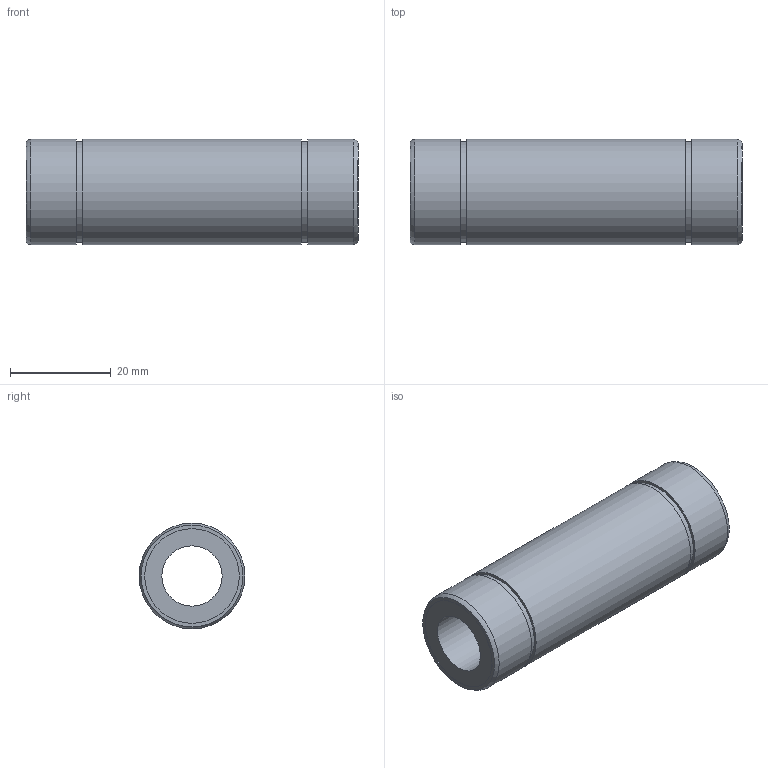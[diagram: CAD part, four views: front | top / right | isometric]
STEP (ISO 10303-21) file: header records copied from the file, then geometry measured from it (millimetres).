
FILE_DESCRIPTION((''),'2;1');
FILE_NAME('D:\製品 (図面)\カタログ用3D\メンテナンスフリー関連\STEP形式\LD-MF\LD12MF.stp','2010-06-01T15:35:36',('Tsuchiya'),(''),'Autodesk Inventor 10','Autodesk Inventor 10','');
FILE_SCHEMA(('AUTOMOTIVE_DESIGN { 1 0 10303 214 1 1 1 1 }'));
Length unit declared in the file: millimetre
Products named in the file (1): LD12MF
Bounding box: 66 x 21 x 21 mm (x, y, z)
Volume: 15257.7 mm3; surface area: 7390.9 mm2
Topology: 1 solids, 1 shells, 18 faces, 28 edges, 18 vertices
Faces by surface type: plane 8, cylinder 8, torus 2
Full cylindrical faces by diameter (mm): 12 x1, 18.8 x2, 20 x2, 21 x3
Entity records: 391 total; most frequent: DIRECTION 74, CARTESIAN_POINT 55, AXIS2_PLACEMENT_3D 37, ORIENTED_EDGE 36, EDGE_LOOP 36, VERTEX_POINT 18, CIRCLE 18, EDGE_CURVE 18
